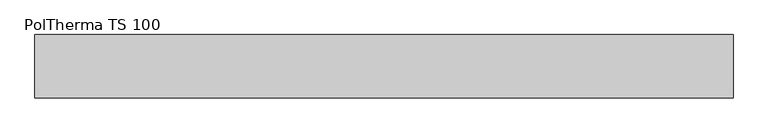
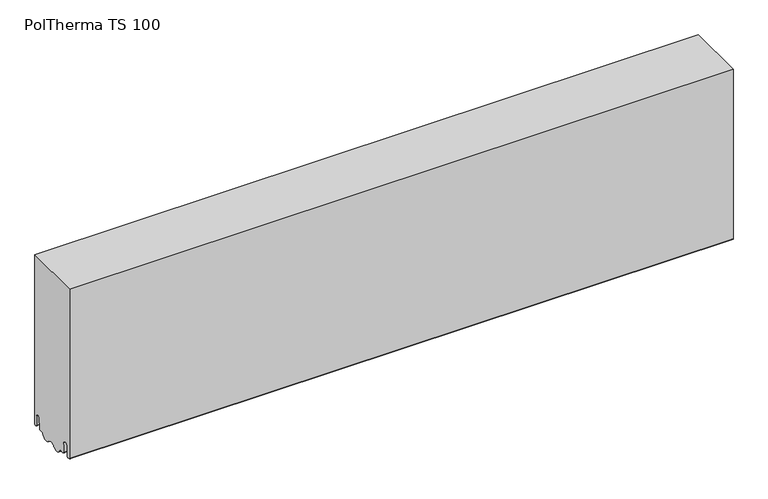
"""IFC4 building model written with IfcOpenShell, lengths in millimetres: plate geometry, Europanels_Poltherma TS_Hz : PolTherma TS 100."""

from ifc_helpers import new_model, si_unit, point, frame, frame_2d, origin, place, context, project, spatial, polyline, circle_curve, trimmed, segment, composite_curve, outline, extrude, source, transform, mapped, element, save


def poltherma_ts_100_bee1555e(model_context):
    return source(origin(), model_context, "Body", "SweptSolid", [
        extrude(outline(composite_curve([segment(polyline([(-50.0, 300.0), (50.0, 300.0), (50.0, 3.8418901)]), True, "CONTINUOUS"), segment(trimmed(circle_curve(frame_2d((47.632528, 3.8418901)), 2.367472), [point((50.0, 3.8418901))], [point((45.2685131, 3.7139946))], False, "CARTESIAN"), True, "CONTINUOUS"), segment(polyline([(45.2685131, 3.7139946), (44.3287441, 21.084649)]), True, "CONTINUOUS"), segment(trimmed(circle_curve(frame_2d((41.0497127, 20.9072503)), 3.2838266), [point((44.3287441, 21.084649))], [point((37.7713293, 21.0962469))], True, "CARTESIAN"), True, "CONTINUOUS"), segment(polyline([(37.7713293, 21.0962469), (36.7366349, 3.1481762)]), True, "CONTINUOUS"), segment(trimmed(circle_curve(frame_2d((34.9895357, 3.2488953)), 1.75), [point((36.7366349, 3.1481762))], [point((34.9895357, 1.4988953))], False, "CARTESIAN"), True, "CONTINUOUS"), segment(polyline([(34.9895357, 1.4988953), (27.5267156, 1.4988953)]), True, "CONTINUOUS"), segment(trimmed(circle_curve(frame_2d((17.7, 3.3524487)), 10.0), [point((27.5267156, 1.4988953))], [point((10.2, -3.2619295))], False, "CARTESIAN"), True, "CONTINUOUS"), segment(trimmed(circle_curve(frame_2d((2.7, -9.8763078)), 10.0), [point((10.2, -3.2619295))], [point((-4.8, -3.2619295))], True, "CARTESIAN"), True, "CONTINUOUS"), segment(trimmed(circle_curve(frame_2d((-12.3, 3.3524487)), 10.0), [point((-4.8, -3.2619295))], [point((-22.1267156, 1.4988953))], False, "CARTESIAN"), True, "CONTINUOUS"), segment(polyline([(-22.1267156, 1.4988953), (-30.5507777, 1.4988953)]), True, "CONTINUOUS"), segment(trimmed(circle_curve(frame_2d((-30.5507777, 3.2988953)), 1.8), [point((-30.5507777, 1.4988953))], [point((-32.3477941, 3.1952985))], False, "CARTESIAN"), True, "CONTINUOUS"), segment(polyline([(-32.3477941, 3.1952985), (-33.3842966, 21.1747334)]), True, "CONTINUOUS"), segment(trimmed(circle_curve(frame_2d((-36.3793238, 21.0020721)), 3.0), [point((-33.3842966, 21.1747334))], [point((-36.3793238, 24.0020721))], True, "CARTESIAN"), True, "CONTINUOUS"), segment(polyline([(-36.3793238, 24.0020721), (-39.3209015, 24.0020721)]), True, "CONTINUOUS"), segment(trimmed(circle_curve(frame_2d((-39.3209015, 21.0020721)), 3.0), [point((-39.3209015, 24.0020721))], [point((-42.3165207, 21.1641379))], True, "CARTESIAN"), True, "CONTINUOUS"), segment(polyline([(-42.3165207, 21.1641379), (-43.2780726, 3.3908514)]), True, "CONTINUOUS"), segment(trimmed(circle_curve(frame_2d((-45.2751521, 3.4988953)), 2.0), [point((-43.2780726, 3.3908514))], [point((-45.2751521, 1.4988953))], False, "CARTESIAN"), True, "CONTINUOUS"), segment(polyline([(-45.2751521, 1.4988953), (-48.0, 1.4988953)]), True, "CONTINUOUS"), segment(trimmed(circle_curve(frame_2d((-48.0, 3.4988953)), 2.0), [point((-48.0, 1.4988953))], [point((-50.0, 3.4988953))], False, "CARTESIAN"), True, "CONTINUOUS"), segment(polyline([(-50.0, 3.4988953), (-50.0, 300.0)]), True, "CONTINUOUS")], self_intersect=False)), frame((-550.0, 0.0, 0.0), z_axis=(1.0, 0.0, 0.0), x_axis=(0.0, 1.0, 0.0)), (0.0, 0.0, 1.0), 1100.0),
    ])


if __name__ == "__main__":
    model = new_model("IFC4")
    model_context = context("Model", 3, world=origin())
    ifc_project = project(units=[si_unit("LENGTHUNIT", "METRE", prefix="MILLI")], contexts=[model_context])
    site = spatial("IfcSite", under=ifc_project)
    building = spatial("IfcBuilding", under=site)
    placement = place(None, origin())
    poltherma_ts_100_shape = poltherma_ts_100_bee1555e(model_context)
    element("IfcPlate", 1, ObjectType="Europanels_Poltherma TS_Hz : PolTherma TS 100", at=placement, inside=building, context=model_context, shape_type="MappedRepresentation", body=[
        mapped(poltherma_ts_100_shape, transform((0.0, 0.0, 0.0), x_axis=(1.0, 0.0, 0.0), y_axis=(0.0, 1.0, 0.0), z_axis=(0.0, 0.0, 1.0))),
    ])
    save(model, "model.ifc")
